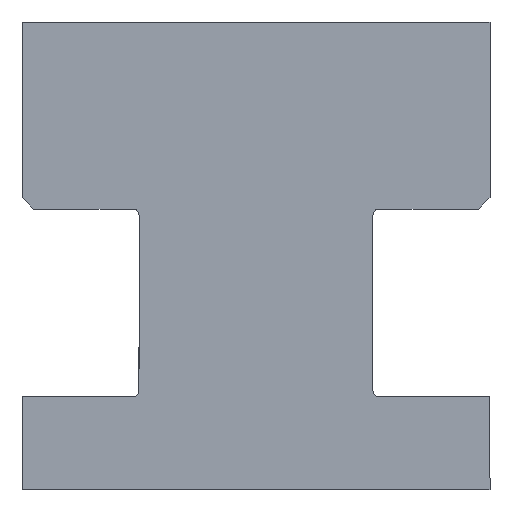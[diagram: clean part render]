
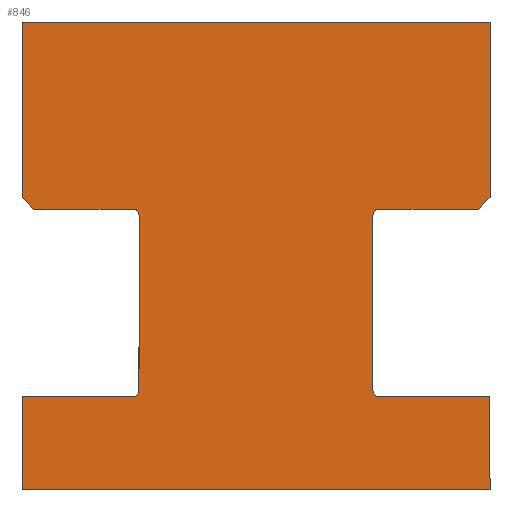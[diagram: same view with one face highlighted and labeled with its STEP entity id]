
A CAD part, front view. The second image highlights one B-rep face of the part: STEP entity #846.
In plain terms, the highlighted planar face has unit normal (0, -1, 0).
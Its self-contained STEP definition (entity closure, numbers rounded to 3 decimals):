
#2 = VECTOR ( 'NONE', #4134, 1000. ) ;
#53 = LINE ( 'NONE', #3895, #459 ) ;
#71 = DIRECTION ( 'NONE',  ( 0., 1., 0. ) ) ;
#75 = LINE ( 'NONE', #6565, #6520 ) ;
#138 = CARTESIAN_POINT ( 'NONE',  ( 5., -40., 4.25 ) ) ;
#155 = LINE ( 'NONE', #263, #3329 ) ;
#209 = CARTESIAN_POINT ( 'NONE',  ( -10., -40., 20. ) ) ;
#263 = CARTESIAN_POINT ( 'NONE',  ( 10., -40., 4. ) ) ;
#267 = VERTEX_POINT ( 'NONE', #5994 ) ;
#271 = DIRECTION ( 'NONE',  ( 0., 0., -1. ) ) ;
#274 = EDGE_CURVE ( 'NONE', #2355, #3588, #556, .T. ) ;
#339 = DIRECTION ( 'NONE',  ( 0., 0., 1. ) ) ;
#375 = DIRECTION ( 'NONE',  ( 0., 1., 0. ) ) ;
#386 = LINE ( 'NONE', #4839, #4841 ) ;
#388 = EDGE_CURVE ( 'NONE', #267, #3865, #858, .T. ) ;
#410 = ORIENTED_EDGE ( 'NONE', *, *, #5161, .T. ) ;
#438 = CARTESIAN_POINT ( 'NONE',  ( -5., -40., 4.25 ) ) ;
#458 = VERTEX_POINT ( 'NONE', #988 ) ;
#459 = VECTOR ( 'NONE', #4296, 1000. ) ;
#478 = EDGE_CURVE ( 'NONE', #1130, #4338, #5935, .T. ) ;
#524 = CARTESIAN_POINT ( 'NONE',  ( 5.25, -40., 12. ) ) ;
#542 = CARTESIAN_POINT ( 'NONE',  ( -5.25, -40., 12. ) ) ;
#556 = LINE ( 'NONE', #5189, #4342 ) ;
#640 = LINE ( 'NONE', #4479, #6515 ) ;
#781 = CARTESIAN_POINT ( 'NONE',  ( -10., -40., 20. ) ) ;
#810 = AXIS2_PLACEMENT_3D ( 'NONE', #3155, #938, #6402 ) ;
#833 = VECTOR ( 'NONE', #1791, 1000. ) ;
#846 = ADVANCED_FACE ( 'NONE', ( #6880 ), #5267, .F. ) ;
#858 = LINE ( 'NONE', #1898, #6754 ) ;
#936 = CIRCLE ( 'NONE', #6768, 0.25 ) ;
#938 = DIRECTION ( 'NONE',  ( 0., 1., 0. ) ) ;
#969 = EDGE_CURVE ( 'NONE', #1511, #2355, #53, .T. ) ;
#988 = CARTESIAN_POINT ( 'NONE',  ( 10., -40., 0. ) ) ;
#1000 = DIRECTION ( 'NONE',  ( 0., 1., 0. ) ) ;
#1031 = DIRECTION ( 'NONE',  ( 0., 0., -1. ) ) ;
#1111 = CARTESIAN_POINT ( 'NONE',  ( 5., -40., 11.75 ) ) ;
#1130 = VERTEX_POINT ( 'NONE', #2611 ) ;
#1166 = VERTEX_POINT ( 'NONE', #3538 ) ;
#1233 = ORIENTED_EDGE ( 'NONE', *, *, #4509, .T. ) ;
#1290 = VECTOR ( 'NONE', #4789, 1000. ) ;
#1347 = ORIENTED_EDGE ( 'NONE', *, *, #3038, .T. ) ;
#1399 = AXIS2_PLACEMENT_3D ( 'NONE', #5983, #71, #2209 ) ;
#1409 = DIRECTION ( 'NONE',  ( 1., 0., 0. ) ) ;
#1458 = CARTESIAN_POINT ( 'NONE',  ( -10., -40., 0. ) ) ;
#1511 = VERTEX_POINT ( 'NONE', #524 ) ;
#1545 = DIRECTION ( 'NONE',  ( 0.707, 0., -0.707 ) ) ;
#1638 = ORIENTED_EDGE ( 'NONE', *, *, #6651, .T. ) ;
#1771 = ORIENTED_EDGE ( 'NONE', *, *, #4025, .T. ) ;
#1781 = LINE ( 'NONE', #6171, #4716 ) ;
#1782 = VERTEX_POINT ( 'NONE', #3200 ) ;
#1791 = DIRECTION ( 'NONE',  ( 1., 0., 0. ) ) ;
#1797 = VERTEX_POINT ( 'NONE', #542 ) ;
#1824 = DIRECTION ( 'NONE',  ( 0.707, 0., 0.707 ) ) ;
#1870 = CIRCLE ( 'NONE', #2444, 0.25 ) ;
#1871 = DIRECTION ( 'NONE',  ( 0., 0., -1. ) ) ;
#1898 = CARTESIAN_POINT ( 'NONE',  ( -10., -40., 20. ) ) ;
#1909 = LINE ( 'NONE', #209, #6639 ) ;
#2078 = CARTESIAN_POINT ( 'NONE',  ( 9.5, -40., 12. ) ) ;
#2150 = ORIENTED_EDGE ( 'NONE', *, *, #3273, .T. ) ;
#2179 = ORIENTED_EDGE ( 'NONE', *, *, #5806, .T. ) ;
#2209 = DIRECTION ( 'NONE',  ( 0., 0., -1. ) ) ;
#2250 = VERTEX_POINT ( 'NONE', #4291 ) ;
#2355 = VERTEX_POINT ( 'NONE', #2078 ) ;
#2444 = AXIS2_PLACEMENT_3D ( 'NONE', #5120, #4590, #1871 ) ;
#2611 = CARTESIAN_POINT ( 'NONE',  ( 5.25, -40., 4. ) ) ;
#2638 = CARTESIAN_POINT ( 'NONE',  ( -5.25, -40., 4. ) ) ;
#2679 = EDGE_CURVE ( 'NONE', #5040, #1511, #3786, .T. ) ;
#2685 = CARTESIAN_POINT ( 'NONE',  ( 10., -40., 20. ) ) ;
#2842 = EDGE_CURVE ( 'NONE', #1166, #3588, #1781, .T. ) ;
#3029 = ORIENTED_EDGE ( 'NONE', *, *, #388, .T. ) ;
#3038 = EDGE_CURVE ( 'NONE', #4639, #4927, #640, .T. ) ;
#3114 = EDGE_CURVE ( 'NONE', #267, #1166, #1909, .T. ) ;
#3123 = LINE ( 'NONE', #2685, #4021 ) ;
#3128 = VERTEX_POINT ( 'NONE', #4557 ) ;
#3155 = CARTESIAN_POINT ( 'NONE',  ( -10., -40., 20. ) ) ;
#3181 = DIRECTION ( 'NONE',  ( 0., 0., 1. ) ) ;
#3200 = CARTESIAN_POINT ( 'NONE',  ( 10., -40., 4. ) ) ;
#3248 = EDGE_CURVE ( 'NONE', #1782, #458, #3123, .T. ) ;
#3273 = EDGE_CURVE ( 'NONE', #5665, #4639, #936, .T. ) ;
#3329 = VECTOR ( 'NONE', #4105, 1000. ) ;
#3496 = EDGE_CURVE ( 'NONE', #1782, #1130, #155, .T. ) ;
#3534 = LINE ( 'NONE', #3572, #833 ) ;
#3538 = CARTESIAN_POINT ( 'NONE',  ( 10., -40., 20. ) ) ;
#3572 = CARTESIAN_POINT ( 'NONE',  ( -10., -40., 12. ) ) ;
#3588 = VERTEX_POINT ( 'NONE', #5071 ) ;
#3625 = LINE ( 'NONE', #1458, #2 ) ;
#3731 = LINE ( 'NONE', #438, #1290 ) ;
#3786 = CIRCLE ( 'NONE', #1399, 0.25 ) ;
#3865 = VERTEX_POINT ( 'NONE', #7022 ) ;
#3895 = CARTESIAN_POINT ( 'NONE',  ( 10., -40., 12. ) ) ;
#3960 = DIRECTION ( 'NONE',  ( 0., 0., -1. ) ) ;
#4021 = VECTOR ( 'NONE', #1031, 1000. ) ;
#4025 = EDGE_CURVE ( 'NONE', #4338, #5040, #75, .T. ) ;
#4105 = DIRECTION ( 'NONE',  ( -1., 0., 0. ) ) ;
#4134 = DIRECTION ( 'NONE',  ( 1., 0., 0. ) ) ;
#4146 = CARTESIAN_POINT ( 'NONE',  ( -5., -40., 4.25 ) ) ;
#4162 = EDGE_CURVE ( 'NONE', #3128, #5665, #3731, .T. ) ;
#4291 = CARTESIAN_POINT ( 'NONE',  ( -10., -40., 0. ) ) ;
#4296 = DIRECTION ( 'NONE',  ( 1., 0., 0. ) ) ;
#4338 = VERTEX_POINT ( 'NONE', #138 ) ;
#4342 = VECTOR ( 'NONE', #1824, 1000. ) ;
#4359 = ORIENTED_EDGE ( 'NONE', *, *, #4561, .T. ) ;
#4437 = EDGE_LOOP ( 'NONE', ( #6982, #6431, #4973, #6730, #3029, #410, #4359, #1638, #6036, #2150, #1347, #1233, #2179, #5812, #6512, #6921, #1771, #5618 ) ) ;
#4479 = CARTESIAN_POINT ( 'NONE',  ( -10., -40., 4. ) ) ;
#4509 = EDGE_CURVE ( 'NONE', #4927, #2250, #5674, .T. ) ;
#4557 = CARTESIAN_POINT ( 'NONE',  ( -5., -40., 11.75 ) ) ;
#4561 = EDGE_CURVE ( 'NONE', #6472, #1797, #3534, .T. ) ;
#4590 = DIRECTION ( 'NONE',  ( 0., 1., 0. ) ) ;
#4607 = VECTOR ( 'NONE', #271, 1000. ) ;
#4639 = VERTEX_POINT ( 'NONE', #2638 ) ;
#4697 = AXIS2_PLACEMENT_3D ( 'NONE', #5910, #375, #339 ) ;
#4716 = VECTOR ( 'NONE', #3960, 1000. ) ;
#4789 = DIRECTION ( 'NONE',  ( 0., 0., -1. ) ) ;
#4839 = CARTESIAN_POINT ( 'NONE',  ( -9.5, -40., 12. ) ) ;
#4841 = VECTOR ( 'NONE', #1545, 1000. ) ;
#4927 = VERTEX_POINT ( 'NONE', #6595 ) ;
#4973 = ORIENTED_EDGE ( 'NONE', *, *, #2842, .F. ) ;
#5040 = VERTEX_POINT ( 'NONE', #1111 ) ;
#5071 = CARTESIAN_POINT ( 'NONE',  ( 10., -40., 12.5 ) ) ;
#5120 = CARTESIAN_POINT ( 'NONE',  ( -5.25, -40., 11.75 ) ) ;
#5147 = DIRECTION ( 'NONE',  ( 0., 0., -1. ) ) ;
#5161 = EDGE_CURVE ( 'NONE', #3865, #6472, #386, .T. ) ;
#5189 = CARTESIAN_POINT ( 'NONE',  ( 10., -40., 12.5 ) ) ;
#5267 = PLANE ( 'NONE',  #810 ) ;
#5553 = DIRECTION ( 'NONE',  ( 0., 0., 1. ) ) ;
#5571 = DIRECTION ( 'NONE',  ( -1., 0., 0. ) ) ;
#5618 = ORIENTED_EDGE ( 'NONE', *, *, #2679, .T. ) ;
#5665 = VERTEX_POINT ( 'NONE', #4146 ) ;
#5674 = LINE ( 'NONE', #781, #4607 ) ;
#5806 = EDGE_CURVE ( 'NONE', #2250, #458, #3625, .T. ) ;
#5812 = ORIENTED_EDGE ( 'NONE', *, *, #3248, .F. ) ;
#5889 = CARTESIAN_POINT ( 'NONE',  ( -5.25, -40., 4.25 ) ) ;
#5910 = CARTESIAN_POINT ( 'NONE',  ( 5.25, -40., 4.25 ) ) ;
#5935 = CIRCLE ( 'NONE', #4697, 0.25 ) ;
#5983 = CARTESIAN_POINT ( 'NONE',  ( 5.25, -40., 11.75 ) ) ;
#5994 = CARTESIAN_POINT ( 'NONE',  ( -10., -40., 20. ) ) ;
#6036 = ORIENTED_EDGE ( 'NONE', *, *, #4162, .T. ) ;
#6171 = CARTESIAN_POINT ( 'NONE',  ( 10., -40., 20. ) ) ;
#6402 = DIRECTION ( 'NONE',  ( -1., 0., 0. ) ) ;
#6431 = ORIENTED_EDGE ( 'NONE', *, *, #274, .T. ) ;
#6472 = VERTEX_POINT ( 'NONE', #6814 ) ;
#6512 = ORIENTED_EDGE ( 'NONE', *, *, #3496, .T. ) ;
#6515 = VECTOR ( 'NONE', #5571, 1000. ) ;
#6520 = VECTOR ( 'NONE', #5553, 1000. ) ;
#6565 = CARTESIAN_POINT ( 'NONE',  ( 5., -40., 4.25 ) ) ;
#6595 = CARTESIAN_POINT ( 'NONE',  ( -10., -40., 4. ) ) ;
#6639 = VECTOR ( 'NONE', #1409, 1000. ) ;
#6651 = EDGE_CURVE ( 'NONE', #1797, #3128, #1870, .T. ) ;
#6730 = ORIENTED_EDGE ( 'NONE', *, *, #3114, .F. ) ;
#6754 = VECTOR ( 'NONE', #5147, 1000. ) ;
#6768 = AXIS2_PLACEMENT_3D ( 'NONE', #5889, #1000, #3181 ) ;
#6814 = CARTESIAN_POINT ( 'NONE',  ( -9.5, -40., 12. ) ) ;
#6880 = FACE_OUTER_BOUND ( 'NONE', #4437, .T. ) ;
#6921 = ORIENTED_EDGE ( 'NONE', *, *, #478, .T. ) ;
#6982 = ORIENTED_EDGE ( 'NONE', *, *, #969, .T. ) ;
#7022 = CARTESIAN_POINT ( 'NONE',  ( -10., -40., 12.5 ) ) ;
